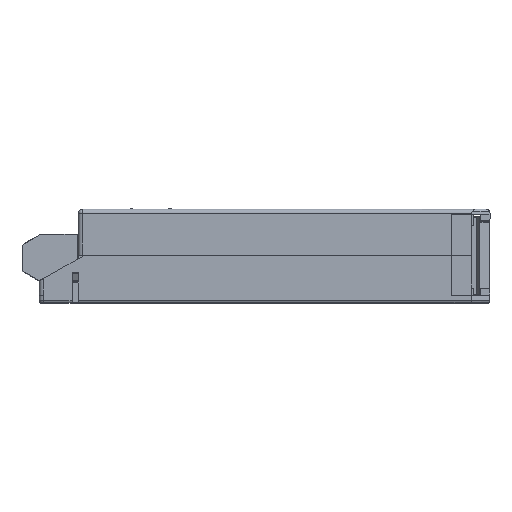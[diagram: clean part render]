
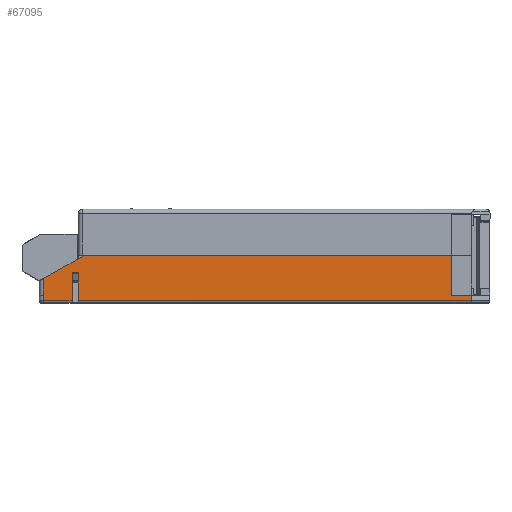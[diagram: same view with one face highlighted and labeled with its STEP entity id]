
A CAD part, top view. The second image highlights one B-rep face of the part: STEP entity #67095.
In plain terms, the highlighted planar face has unit normal (0, 0, 1).
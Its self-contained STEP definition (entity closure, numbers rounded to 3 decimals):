
#1739 = LINE ( 'NONE', #26506, #151889 ) ;
#3165 = DIRECTION ( 'NONE',  ( 0., -1., 0. ) ) ;
#3624 = CARTESIAN_POINT ( 'NONE',  ( 65.998, 1.8, 37.495 ) ) ;
#6304 = VECTOR ( 'NONE', #89753, 1000. ) ;
#6954 = VECTOR ( 'NONE', #3165, 1000. ) ;
#7687 = CARTESIAN_POINT ( 'NONE',  ( 65.998, 1.8, 37.495 ) ) ;
#7852 = DIRECTION ( 'NONE',  ( 0., -1., 0. ) ) ;
#9036 = DIRECTION ( 'NONE',  ( -0.869, -0.494, 0. ) ) ;
#10129 = LINE ( 'NONE', #3624, #6304 ) ;
#11100 = ORIENTED_EDGE ( 'NONE', *, *, #74530, .F. ) ;
#12968 = ORIENTED_EDGE ( 'NONE', *, *, #145054, .T. ) ;
#16977 = CARTESIAN_POINT ( 'NONE',  ( -28.499, 11.55, 37.495 ) ) ;
#18867 = PLANE ( 'NONE',  #129325 ) ;
#19239 = VECTOR ( 'NONE', #137682, 1000. ) ;
#20299 = DIRECTION ( 'NONE',  ( -1., 0., 0. ) ) ;
#26506 = CARTESIAN_POINT ( 'NONE',  ( -31.499, 0.5, 37.495 ) ) ;
#29734 = LINE ( 'NONE', #67982, #71599 ) ;
#31123 = DIRECTION ( 'NONE',  ( 0., 0., -1. ) ) ;
#31238 = LINE ( 'NONE', #141465, #103527 ) ;
#35489 = DIRECTION ( 'NONE',  ( 0., -1., 0. ) ) ;
#36183 = LINE ( 'NONE', #82883, #123589 ) ;
#38362 = CARTESIAN_POINT ( 'NONE',  ( -29.999, 1.8, 37.495 ) ) ;
#40785 = CARTESIAN_POINT ( 'NONE',  ( -31.499, 7.3, 37.495 ) ) ;
#41674 = VERTEX_POINT ( 'NONE', #115576 ) ;
#43018 = DIRECTION ( 'NONE',  ( 1., 0., 0. ) ) ;
#47742 = LINE ( 'NONE', #38362, #19239 ) ;
#57005 = VERTEX_POINT ( 'NONE', #136910 ) ;
#57571 = EDGE_CURVE ( 'NONE', #148273, #41674, #60188, .T. ) ;
#58910 = CARTESIAN_POINT ( 'NONE',  ( -31.499, 0.5, 37.495 ) ) ;
#60188 = LINE ( 'NONE', #63813, #6954 ) ;
#61675 = ORIENTED_EDGE ( 'NONE', *, *, #137303, .F. ) ;
#62199 = CARTESIAN_POINT ( 'NONE',  ( -31.499, 1.8, 37.495 ) ) ;
#62745 = EDGE_LOOP ( 'NONE', ( #82128, #64094, #126285, #154852, #115859, #11100, #119870, #12968, #125272, #61675, #111027, #105178 ) ) ;
#63813 = CARTESIAN_POINT ( 'NONE',  ( -38.499, 1.8, 37.495 ) ) ;
#64094 = ORIENTED_EDGE ( 'NONE', *, *, #57571, .T. ) ;
#65505 = CARTESIAN_POINT ( 'NONE',  ( 61.001, 1.8, 37.495 ) ) ;
#67095 = ADVANCED_FACE ( 'NONE', ( #88845 ), #18867, .F. ) ;
#67982 = CARTESIAN_POINT ( 'NONE',  ( 61.001, 11.55, 37.495 ) ) ;
#68141 = LINE ( 'NONE', #79211, #140345 ) ;
#70823 = VECTOR ( 'NONE', #35489, 1000. ) ;
#71599 = VECTOR ( 'NONE', #7852, 1000. ) ;
#73897 = CARTESIAN_POINT ( 'NONE',  ( 65.998, 0.5, 37.495 ) ) ;
#74530 = EDGE_CURVE ( 'NONE', #86335, #84464, #31238, .T. ) ;
#75046 = CARTESIAN_POINT ( 'NONE',  ( -29.999, 7.3, 37.495 ) ) ;
#77139 = LINE ( 'NONE', #81897, #153121 ) ;
#78081 = EDGE_CURVE ( 'NONE', #86335, #57005, #47742, .T. ) ;
#79211 = CARTESIAN_POINT ( 'NONE',  ( -28.499, 11.55, 37.495 ) ) ;
#81897 = CARTESIAN_POINT ( 'NONE',  ( -28.499, 11.55, 37.495 ) ) ;
#82128 = ORIENTED_EDGE ( 'NONE', *, *, #115794, .T. ) ;
#82883 = CARTESIAN_POINT ( 'NONE',  ( -38.499, 1.8, 37.495 ) ) ;
#84464 = VERTEX_POINT ( 'NONE', #40785 ) ;
#84925 = LINE ( 'NONE', #73897, #126791 ) ;
#86335 = VERTEX_POINT ( 'NONE', #75046 ) ;
#86423 = CARTESIAN_POINT ( 'NONE',  ( 61.001, 11.55, 37.495 ) ) ;
#86772 = CARTESIAN_POINT ( 'NONE',  ( -38.499, 5.868, 37.495 ) ) ;
#88845 = FACE_OUTER_BOUND ( 'NONE', #62745, .T. ) ;
#89753 = DIRECTION ( 'NONE',  ( 1., 0., 0. ) ) ;
#95570 = EDGE_CURVE ( 'NONE', #113743, #144853, #29734, .T. ) ;
#96245 = DIRECTION ( 'NONE',  ( 1., 0., 0. ) ) ;
#96792 = DIRECTION ( 'NONE',  ( 0., -1., 0. ) ) ;
#97272 = LINE ( 'NONE', #120517, #70823 ) ;
#103527 = VECTOR ( 'NONE', #20299, 1000. ) ;
#105178 = ORIENTED_EDGE ( 'NONE', *, *, #139602, .F. ) ;
#105438 = LINE ( 'NONE', #62199, #143499 ) ;
#105977 = EDGE_CURVE ( 'NONE', #118678, #139825, #1739, .T. ) ;
#106070 = VERTEX_POINT ( 'NONE', #125813 ) ;
#107300 = DIRECTION ( 'NONE',  ( 0., -1., 0. ) ) ;
#108967 = VERTEX_POINT ( 'NONE', #16977 ) ;
#111027 = ORIENTED_EDGE ( 'NONE', *, *, #95570, .F. ) ;
#113105 = DIRECTION ( 'NONE',  ( 1., 0., 0. ) ) ;
#113743 = VERTEX_POINT ( 'NONE', #86423 ) ;
#115576 = CARTESIAN_POINT ( 'NONE',  ( -38.499, 1.8, 37.495 ) ) ;
#115794 = EDGE_CURVE ( 'NONE', #108967, #148273, #77139, .T. ) ;
#115859 = ORIENTED_EDGE ( 'NONE', *, *, #134082, .F. ) ;
#118678 = VERTEX_POINT ( 'NONE', #138682 ) ;
#118928 = EDGE_CURVE ( 'NONE', #41674, #118678, #36183, .T. ) ;
#119870 = ORIENTED_EDGE ( 'NONE', *, *, #78081, .T. ) ;
#120517 = CARTESIAN_POINT ( 'NONE',  ( 65.998, 1.8, 37.495 ) ) ;
#123589 = VECTOR ( 'NONE', #107300, 1000. ) ;
#125272 = ORIENTED_EDGE ( 'NONE', *, *, #135329, .F. ) ;
#125813 = CARTESIAN_POINT ( 'NONE',  ( 65.998, 1.8, 37.495 ) ) ;
#126285 = ORIENTED_EDGE ( 'NONE', *, *, #118928, .T. ) ;
#126791 = VECTOR ( 'NONE', #96245, 1000. ) ;
#129325 = AXIS2_PLACEMENT_3D ( 'NONE', #7687, #31123, #129356 ) ;
#129356 = DIRECTION ( 'NONE',  ( -1., 0., 0. ) ) ;
#134082 = EDGE_CURVE ( 'NONE', #84464, #139825, #105438, .T. ) ;
#135329 = EDGE_CURVE ( 'NONE', #106070, #142035, #97272, .T. ) ;
#135847 = CARTESIAN_POINT ( 'NONE',  ( 65.998, 0.5, 37.495 ) ) ;
#136910 = CARTESIAN_POINT ( 'NONE',  ( -29.999, 0.5, 37.495 ) ) ;
#137303 = EDGE_CURVE ( 'NONE', #144853, #106070, #10129, .T. ) ;
#137682 = DIRECTION ( 'NONE',  ( 0., -1., 0. ) ) ;
#138682 = CARTESIAN_POINT ( 'NONE',  ( -38.499, 0.5, 37.495 ) ) ;
#139602 = EDGE_CURVE ( 'NONE', #108967, #113743, #68141, .T. ) ;
#139825 = VERTEX_POINT ( 'NONE', #58910 ) ;
#140345 = VECTOR ( 'NONE', #43018, 1000. ) ;
#141465 = CARTESIAN_POINT ( 'NONE',  ( -31.499, 7.3, 37.495 ) ) ;
#142035 = VERTEX_POINT ( 'NONE', #135847 ) ;
#143499 = VECTOR ( 'NONE', #96792, 1000. ) ;
#144853 = VERTEX_POINT ( 'NONE', #65505 ) ;
#145054 = EDGE_CURVE ( 'NONE', #57005, #142035, #84925, .T. ) ;
#148273 = VERTEX_POINT ( 'NONE', #86772 ) ;
#151889 = VECTOR ( 'NONE', #113105, 1000. ) ;
#153121 = VECTOR ( 'NONE', #9036, 1000. ) ;
#154852 = ORIENTED_EDGE ( 'NONE', *, *, #105977, .T. ) ;
